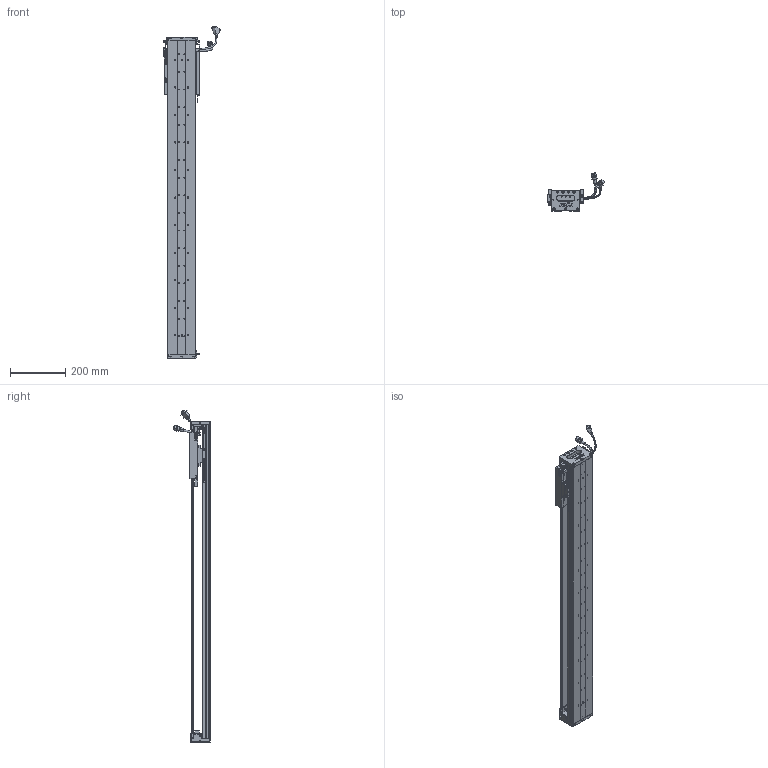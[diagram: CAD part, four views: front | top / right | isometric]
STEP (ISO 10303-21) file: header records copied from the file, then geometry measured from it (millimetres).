
FILE_DESCRIPTION (( 'STEP AP203' ), '1' );
FILE_NAME ('Z2-RY100D-1-L500-B-K.SLDASM_0900.step', '2021-05-17T02:35:43', ( '盈信电脑' ), ( '东莞市道滘镇水果街19号' ), 'SwSTEP 2.0', 'SolidWorks 2016', '' );
FILE_SCHEMA (( 'CONFIG_CONTROL_DESIGN' ));
Length unit declared in the file: millimetre
Products named in the file (36): SCREW-M1.6-3; SEAL-Part-1; Z2-RY100D-1-L500-B-K.SLDASM_0900; HOLDER0; PBU_SHEET; COVER-Part-1; PSLH080_PSLF2; Z2-RY100-L500詩湍90mm遵_0900; 100-Z-臏賑輸盄裔(21遴); Z-RY100D覜茼んえ; SCREW-M1.6-2; SCALE; SCREW-M1.7-1; COVER; 080黍杅芛假蚾釱21遴; 140雄赽晤鎢ん堤盄; SCREW-M1.6; 覜茼ん672; HARNESS-Part-2; SHIELDPLATE; LABEL-Part-1; Z-RY100D詩湍狟揤裔; Z2-RY100铝滑块（21款）; SCALE-Part-1; 140蚥薯蝶輸; SCREW-M1.7; Z2-RY100D-500-倰第菁釱_0900; HARNESS-Part-1; LABEL; Z-100詩湍傷裔啣; SCALE-Part-2; 榋妏寠巭燃_暯_M2_2; SCREW-M1.6-1; HARNESS; SEAL; Z-RY100D詩湍奻揤裔
Assembly tree (43 placements, depth 4):
  Z2-RY100D-1-L500-B-K.SLDASM_0900
    Z2-RY100D-500-倰第菁釱_0900
    Z2-RY100铝滑块（21款）
    PSLH080_PSLF2
      SCALE
        SCALE-Part-1
        SCALE-Part-2
      HARNESS
        HARNESS-Part-1
        HARNESS-Part-2
      LABEL
        LABEL-Part-1
      COVER
        COVER-Part-1
      SEAL
        SEAL-Part-1
      榋妏寠巭燃_暯_M2_2
      SHIELDPLATE
      SCREW-M1.7
      SCREW-M1.7-1
      PBU_SHEET
      SCREW-M1.6
      SCREW-M1.6-1
      SCREW-M1.6-2
      SCREW-M1.6-3
      HOLDER0
    080黍杅芛假蚾釱21遴
    Z-100詩湍傷裔啣  x2
    140蚥薯蝶輸  x2
    覜茼ん672  x3
    Z-RY100D覜茼んえ  x3
    100-Z-臏賑輸盄裔(21遴)
    140雄赽晤鎢ん堤盄
    Z2-RY100-L500詩湍90mm遵_0900
    Z-RY100D詩湍狟揤裔  x2
    Z-RY100D詩湍奻揤裔  x2
Bounding box: 205.84 x 136.11 x 1205.43 mm (x, y, z)
Volume: 2449773.9 mm3; surface area: 950578.2 mm2
Topology: 38 solids, 38 shells, 2580 faces, 6789 edges, 4300 vertices
Faces by surface type: plane 1122, cylinder 1118, cone 218, torus 69, bspline 53
Entity records: 70305 total; most frequent: CARTESIAN_POINT 14848, DIRECTION 11117, ORIENTED_EDGE 10474, EDGE_CURVE 5237, AXIS2_PLACEMENT_3D 4085, VERTEX_POINT 3368, LINE 2947, VECTOR 2947
